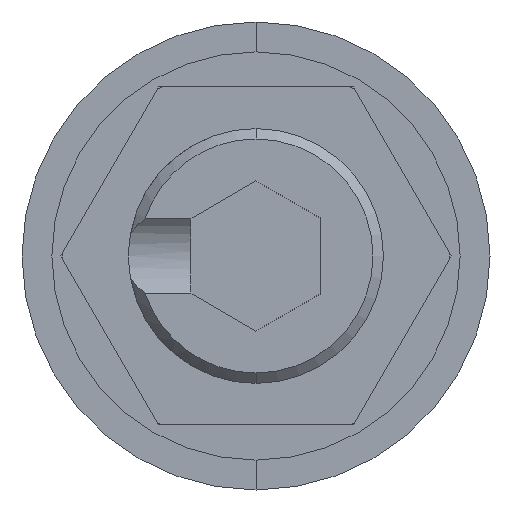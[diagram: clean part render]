
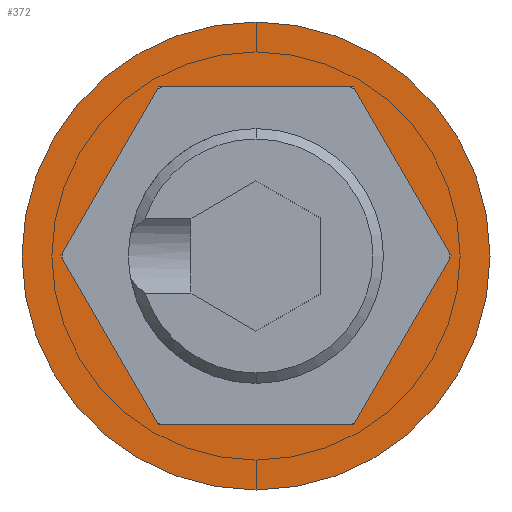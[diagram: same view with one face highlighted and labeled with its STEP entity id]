
A CAD part, front view. The second image highlights one B-rep face of the part: STEP entity #372.
In plain terms, the highlighted planar face has unit normal (0, -1, 0).
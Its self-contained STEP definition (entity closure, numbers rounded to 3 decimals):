
#40 = EDGE_CURVE ( 'NONE', #853, #2199, #1592, .T. ) ;
#173 = EDGE_CURVE ( 'NONE', #1931, #2257, #376, .T. ) ;
#206 = AXIS2_PLACEMENT_3D ( 'NONE', #1668, #1665, #1658 ) ;
#210 = CARTESIAN_POINT ( 'NONE',  ( -1.876, 0., 3.25 ) ) ;
#234 = DIRECTION ( 'NONE',  ( -0.5, 0., -0.866 ) ) ;
#250 = AXIS2_PLACEMENT_3D ( 'NONE', #924, #933, #934 ) ;
#286 = CARTESIAN_POINT ( 'NONE',  ( 3.753, 0., 0. ) ) ;
#302 = ORIENTED_EDGE ( 'NONE', *, *, #1167, .F. ) ;
#343 = ORIENTED_EDGE ( 'NONE', *, *, #1901, .T. ) ;
#344 = CARTESIAN_POINT ( 'NONE',  ( -1.876, 0., -3.25 ) ) ;
#349 = DIRECTION ( 'NONE',  ( 1., 0., 0. ) ) ;
#359 = ORIENTED_EDGE ( 'NONE', *, *, #1742, .F. ) ;
#372 = ADVANCED_FACE ( 'NONE', ( #2164, #662 ), #897, .T. ) ;
#376 = CIRCLE ( 'NONE', #627, 4.5 ) ;
#481 = VECTOR ( 'NONE', #1305, 1000. ) ;
#521 = CARTESIAN_POINT ( 'NONE',  ( 0., 0., 4.5 ) ) ;
#531 = ORIENTED_EDGE ( 'NONE', *, *, #40, .F. ) ;
#584 = CARTESIAN_POINT ( 'NONE',  ( 0., 0., 0. ) ) ;
#585 = DIRECTION ( 'NONE',  ( 0., -1., 0. ) ) ;
#588 = CARTESIAN_POINT ( 'NONE',  ( 1.876, 0., -3.25 ) ) ;
#589 = DIRECTION ( 'NONE',  ( 0., 0., -1. ) ) ;
#627 = AXIS2_PLACEMENT_3D ( 'NONE', #584, #585, #589 ) ;
#652 = EDGE_CURVE ( 'NONE', #1902, #853, #1075, .T. ) ;
#662 = FACE_OUTER_BOUND ( 'NONE', #1000, .T. ) ;
#809 = VECTOR ( 'NONE', #349, 1000. ) ;
#853 = VERTEX_POINT ( 'NONE', #2020 ) ;
#897 = PLANE ( 'NONE',  #250 ) ;
#924 = CARTESIAN_POINT ( 'NONE',  ( 0., 0., 0. ) ) ;
#933 = DIRECTION ( 'NONE',  ( 0., -1., 0. ) ) ;
#934 = DIRECTION ( 'NONE',  ( 0., 0., -1. ) ) ;
#999 = EDGE_CURVE ( 'NONE', #1755, #1902, #1864, .T. ) ;
#1000 = EDGE_LOOP ( 'NONE', ( #1787, #343 ) ) ;
#1014 = CARTESIAN_POINT ( 'NONE',  ( 3.753, 0., 0. ) ) ;
#1047 = VERTEX_POINT ( 'NONE', #286 ) ;
#1075 = LINE ( 'NONE', #1322, #481 ) ;
#1167 = EDGE_CURVE ( 'NONE', #1957, #1755, #1782, .T. ) ;
#1305 = DIRECTION ( 'NONE',  ( 0.5, 0., -0.866 ) ) ;
#1316 = EDGE_LOOP ( 'NONE', ( #531, #1880, #1383, #302, #1449, #359 ) ) ;
#1322 = CARTESIAN_POINT ( 'NONE',  ( -3.753, 0., 0. ) ) ;
#1335 = CARTESIAN_POINT ( 'NONE',  ( 1.876, 0., -3.25 ) ) ;
#1337 = CIRCLE ( 'NONE', #206, 4.5 ) ;
#1341 = CARTESIAN_POINT ( 'NONE',  ( 0., 0., -4.5 ) ) ;
#1369 = CARTESIAN_POINT ( 'NONE',  ( 1.876, 0., 3.25 ) ) ;
#1383 = ORIENTED_EDGE ( 'NONE', *, *, #999, .F. ) ;
#1420 = EDGE_CURVE ( 'NONE', #1047, #1957, #1612, .T. ) ;
#1449 = ORIENTED_EDGE ( 'NONE', *, *, #1420, .F. ) ;
#1453 = VECTOR ( 'NONE', #1462, 1000. ) ;
#1462 = DIRECTION ( 'NONE',  ( 0.5, 0., 0.866 ) ) ;
#1482 = LINE ( 'NONE', #1335, #1453 ) ;
#1592 = LINE ( 'NONE', #344, #809 ) ;
#1608 = VECTOR ( 'NONE', #1978, 1000. ) ;
#1612 = LINE ( 'NONE', #1014, #1608 ) ;
#1658 = DIRECTION ( 'NONE',  ( 0., 0., -1. ) ) ;
#1665 = DIRECTION ( 'NONE',  ( 0., -1., 0. ) ) ;
#1668 = CARTESIAN_POINT ( 'NONE',  ( 0., 0., 0. ) ) ;
#1695 = CARTESIAN_POINT ( 'NONE',  ( -3.753, 0., 0. ) ) ;
#1742 = EDGE_CURVE ( 'NONE', #2199, #1047, #1482, .T. ) ;
#1751 = VECTOR ( 'NONE', #1831, 1000. ) ;
#1755 = VERTEX_POINT ( 'NONE', #2204 ) ;
#1782 = LINE ( 'NONE', #1865, #1751 ) ;
#1787 = ORIENTED_EDGE ( 'NONE', *, *, #173, .T. ) ;
#1831 = DIRECTION ( 'NONE',  ( -1., 0., 0. ) ) ;
#1864 = LINE ( 'NONE', #210, #1886 ) ;
#1865 = CARTESIAN_POINT ( 'NONE',  ( 1.876, 0., 3.25 ) ) ;
#1880 = ORIENTED_EDGE ( 'NONE', *, *, #652, .F. ) ;
#1886 = VECTOR ( 'NONE', #234, 1000. ) ;
#1901 = EDGE_CURVE ( 'NONE', #2257, #1931, #1337, .T. ) ;
#1902 = VERTEX_POINT ( 'NONE', #1695 ) ;
#1931 = VERTEX_POINT ( 'NONE', #1341 ) ;
#1957 = VERTEX_POINT ( 'NONE', #1369 ) ;
#1978 = DIRECTION ( 'NONE',  ( -0.5, 0., 0.866 ) ) ;
#2020 = CARTESIAN_POINT ( 'NONE',  ( -1.876, 0., -3.25 ) ) ;
#2164 = FACE_BOUND ( 'NONE', #1316, .T. ) ;
#2199 = VERTEX_POINT ( 'NONE', #588 ) ;
#2204 = CARTESIAN_POINT ( 'NONE',  ( -1.876, 0., 3.25 ) ) ;
#2257 = VERTEX_POINT ( 'NONE', #521 ) ;
